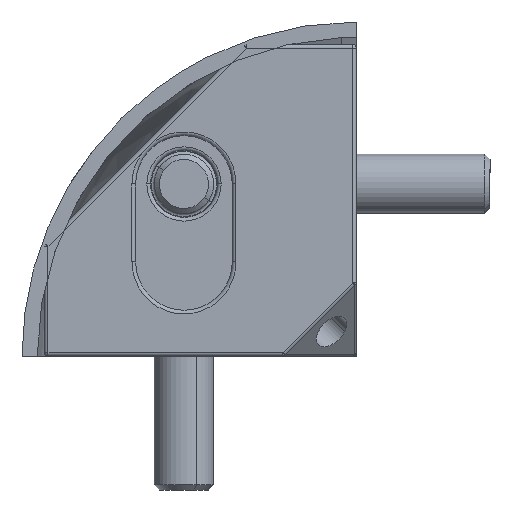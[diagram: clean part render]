
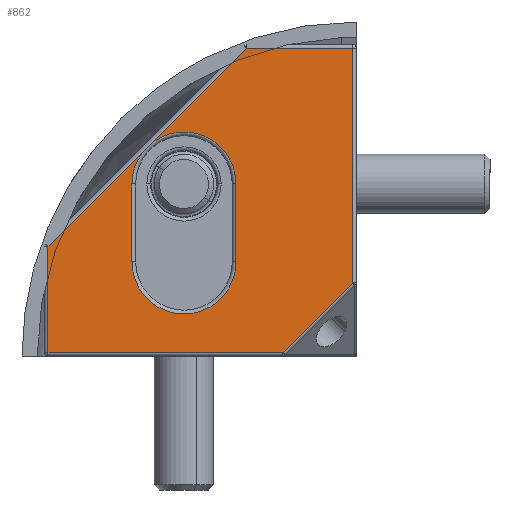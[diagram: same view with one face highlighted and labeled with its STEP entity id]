
A CAD part, left-side view. The second image highlights one B-rep face of the part: STEP entity #862.
In plain terms, the highlighted planar face has unit normal (-1, 0, 0).
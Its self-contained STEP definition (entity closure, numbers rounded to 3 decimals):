
#48 = VERTEX_POINT ( 'NONE', #4313 ) ;
#99 = VECTOR ( 'NONE', #9328, 1000. ) ;
#142 = ORIENTED_EDGE ( 'NONE', *, *, #4227, .T. ) ;
#216 = CARTESIAN_POINT ( 'NONE',  ( -17.167, -0.598, 2.073 ) ) ;
#256 = LINE ( 'NONE', #6745, #8225 ) ;
#263 = CARTESIAN_POINT ( 'NONE',  ( -17.167, -7.598, -8.427 ) ) ;
#413 = EDGE_CURVE ( 'NONE', #5706, #7551, #2360, .T. ) ;
#509 = CARTESIAN_POINT ( 'NONE',  ( -17.167, -9.002, 20.377 ) ) ;
#608 = VECTOR ( 'NONE', #7154, 1000. ) ;
#633 = CARTESIAN_POINT ( 'NONE',  ( -17.167, -13.795, -20.623 ) ) ;
#862 = ADVANCED_FACE ( 'NONE', ( #3163 ), #2751, .T. ) ;
#871 = ORIENTED_EDGE ( 'NONE', *, *, #7372, .T. ) ;
#885 = LINE ( 'NONE', #9009, #1086 ) ;
#903 = VECTOR ( 'NONE', #4043, 1000. ) ;
#907 = CARTESIAN_POINT ( 'NONE',  ( -17.167, 17.705, -20.623 ) ) ;
#917 = VERTEX_POINT ( 'NONE', #5547 ) ;
#1043 = LINE ( 'NONE', #6128, #5503 ) ;
#1082 = EDGE_CURVE ( 'NONE', #8088, #917, #256, .T. ) ;
#1086 = VECTOR ( 'NONE', #3225, 1000. ) ;
#1089 = ORIENTED_EDGE ( 'NONE', *, *, #8279, .T. ) ;
#1176 = EDGE_CURVE ( 'NONE', #6388, #8088, #1043, .T. ) ;
#1293 = DIRECTION ( 'NONE',  ( 1., 0., 0. ) ) ;
#1416 = ORIENTED_EDGE ( 'NONE', *, *, #7598, .T. ) ;
#1545 = EDGE_CURVE ( 'NONE', #917, #2255, #2317, .T. ) ;
#1691 = DIRECTION ( 'NONE',  ( 0., -0.707, 0.707 ) ) ;
#2123 = CARTESIAN_POINT ( 'NONE',  ( -17.167, -7.598, -8.427 ) ) ;
#2223 = LINE ( 'NONE', #4350, #99 ) ;
#2227 = VERTEX_POINT ( 'NONE', #4534 ) ;
#2255 = VERTEX_POINT ( 'NONE', #9116 ) ;
#2317 = CIRCLE ( 'NONE', #4125, 7. ) ;
#2360 = LINE ( 'NONE', #8707, #4965 ) ;
#2465 = VERTEX_POINT ( 'NONE', #263 ) ;
#2558 = CARTESIAN_POINT ( 'NONE',  ( -17.167, -23.295, 20.377 ) ) ;
#2745 = ORIENTED_EDGE ( 'NONE', *, *, #1082, .T. ) ;
#2747 = ORIENTED_EDGE ( 'NONE', *, *, #6681, .T. ) ;
#2751 = PLANE ( 'NONE',  #7952 ) ;
#2886 = DIRECTION ( 'NONE',  ( 0., -1., 0. ) ) ;
#3054 = CIRCLE ( 'NONE', #3658, 7. ) ;
#3163 = FACE_OUTER_BOUND ( 'NONE', #7999, .T. ) ;
#3171 = VECTOR ( 'NONE', #4820, 1000. ) ;
#3186 = EDGE_CURVE ( 'NONE', #8006, #5706, #5727, .T. ) ;
#3225 = DIRECTION ( 'NONE',  ( 0., 0., 1. ) ) ;
#3248 = CARTESIAN_POINT ( 'NONE',  ( -17.167, 17.705, -21.123 ) ) ;
#3434 = ORIENTED_EDGE ( 'NONE', *, *, #3695, .T. ) ;
#3658 = AXIS2_PLACEMENT_3D ( 'NONE', #8946, #6156, #6112 ) ;
#3695 = EDGE_CURVE ( 'NONE', #48, #917, #5561, .T. ) ;
#3912 = LINE ( 'NONE', #8233, #3171 ) ;
#4043 = DIRECTION ( 'NONE',  ( 0., 0., -1. ) ) ;
#4125 = AXIS2_PLACEMENT_3D ( 'NONE', #216, #8970, #5270 ) ;
#4227 = EDGE_CURVE ( 'NONE', #7551, #6388, #885, .T. ) ;
#4313 = CARTESIAN_POINT ( 'NONE',  ( -17.167, 6.402, 2.073 ) ) ;
#4350 = CARTESIAN_POINT ( 'NONE',  ( -17.167, 25.351, -13.977 ) ) ;
#4534 = CARTESIAN_POINT ( 'NONE',  ( -17.167, 6.402, -8.427 ) ) ;
#4820 = DIRECTION ( 'NONE',  ( 0., 0., 1. ) ) ;
#4875 = ORIENTED_EDGE ( 'NONE', *, *, #3186, .T. ) ;
#4879 = DIRECTION ( 'NONE',  ( 0., -1., 0. ) ) ;
#4965 = VECTOR ( 'NONE', #1691, 1000. ) ;
#5180 = DIRECTION ( 'NONE',  ( 0., -1., 0. ) ) ;
#5270 = DIRECTION ( 'NONE',  ( 0., -1., 0. ) ) ;
#5336 = CARTESIAN_POINT ( 'NONE',  ( -17.167, 17.705, -6.331 ) ) ;
#5370 = LINE ( 'NONE', #2123, #608 ) ;
#5503 = VECTOR ( 'NONE', #8357, 1000. ) ;
#5547 = CARTESIAN_POINT ( 'NONE',  ( -17.167, 4.351, 7.023 ) ) ;
#5561 = CIRCLE ( 'NONE', #6781, 7. ) ;
#5581 = DIRECTION ( 'NONE',  ( -1., 0., 0. ) ) ;
#5680 = CARTESIAN_POINT ( 'NONE',  ( -17.167, 18.205, -21.123 ) ) ;
#5706 = VERTEX_POINT ( 'NONE', #8619 ) ;
#5724 = ORIENTED_EDGE ( 'NONE', *, *, #8880, .T. ) ;
#5727 = LINE ( 'NONE', #633, #8877 ) ;
#5833 = ORIENTED_EDGE ( 'NONE', *, *, #1176, .T. ) ;
#6112 = DIRECTION ( 'NONE',  ( 0., -1., 0. ) ) ;
#6128 = CARTESIAN_POINT ( 'NONE',  ( -17.167, 18.205, 20.377 ) ) ;
#6156 = DIRECTION ( 'NONE',  ( 1., 0., 0. ) ) ;
#6216 = DIRECTION ( 'NONE',  ( 0., 0.707, -0.707 ) ) ;
#6388 = VERTEX_POINT ( 'NONE', #2558 ) ;
#6681 = EDGE_CURVE ( 'NONE', #9261, #8006, #9033, .T. ) ;
#6745 = CARTESIAN_POINT ( 'NONE',  ( -17.167, 25.351, -13.977 ) ) ;
#6781 = AXIS2_PLACEMENT_3D ( 'NONE', #9303, #1293, #5180 ) ;
#7154 = DIRECTION ( 'NONE',  ( 0., 0., -1. ) ) ;
#7269 = ORIENTED_EDGE ( 'NONE', *, *, #1545, .T. ) ;
#7372 = EDGE_CURVE ( 'NONE', #2255, #2465, #5370, .T. ) ;
#7533 = CARTESIAN_POINT ( 'NONE',  ( -17.167, -23.295, -11.257 ) ) ;
#7551 = VERTEX_POINT ( 'NONE', #7533 ) ;
#7598 = EDGE_CURVE ( 'NONE', #2465, #2227, #3054, .T. ) ;
#7761 = ORIENTED_EDGE ( 'NONE', *, *, #413, .T. ) ;
#7952 = AXIS2_PLACEMENT_3D ( 'NONE', #5680, #5581, #4879 ) ;
#7999 = EDGE_LOOP ( 'NONE', ( #2747, #4875, #7761, #142, #5833, #2745, #7269, #871, #1416, #5724, #3434, #1089 ) ) ;
#8006 = VERTEX_POINT ( 'NONE', #907 ) ;
#8088 = VERTEX_POINT ( 'NONE', #509 ) ;
#8225 = VECTOR ( 'NONE', #6216, 1000. ) ;
#8233 = CARTESIAN_POINT ( 'NONE',  ( -17.167, 6.402, 2.073 ) ) ;
#8279 = EDGE_CURVE ( 'NONE', #917, #9261, #2223, .T. ) ;
#8357 = DIRECTION ( 'NONE',  ( 0., 1., 0. ) ) ;
#8619 = CARTESIAN_POINT ( 'NONE',  ( -17.167, -13.929, -20.623 ) ) ;
#8707 = CARTESIAN_POINT ( 'NONE',  ( -17.167, 2.388, -36.94 ) ) ;
#8877 = VECTOR ( 'NONE', #2886, 1000. ) ;
#8880 = EDGE_CURVE ( 'NONE', #2227, #48, #3912, .T. ) ;
#8946 = CARTESIAN_POINT ( 'NONE',  ( -17.167, -0.598, -8.427 ) ) ;
#8970 = DIRECTION ( 'NONE',  ( 1., 0., 0. ) ) ;
#9009 = CARTESIAN_POINT ( 'NONE',  ( -17.167, -23.295, -21.123 ) ) ;
#9033 = LINE ( 'NONE', #3248, #903 ) ;
#9116 = CARTESIAN_POINT ( 'NONE',  ( -17.167, -7.598, 2.073 ) ) ;
#9261 = VERTEX_POINT ( 'NONE', #5336 ) ;
#9303 = CARTESIAN_POINT ( 'NONE',  ( -17.167, -0.598, 2.073 ) ) ;
#9328 = DIRECTION ( 'NONE',  ( 0., 0.707, -0.707 ) ) ;
